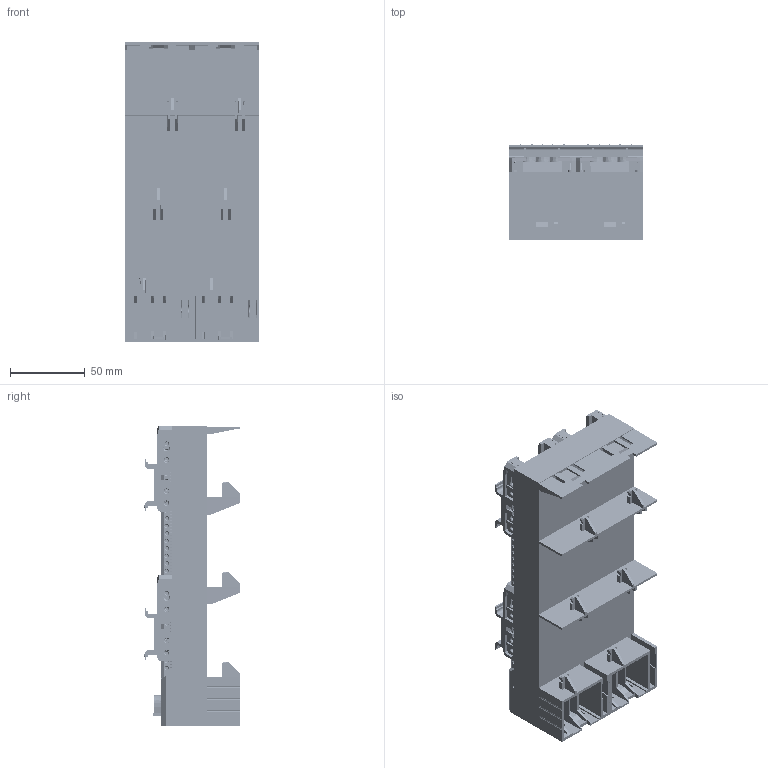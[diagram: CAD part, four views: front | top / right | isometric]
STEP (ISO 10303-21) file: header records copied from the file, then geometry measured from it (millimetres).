
FILE_DESCRIPTION (( 'STEP AP203' ), '1' );
FILE_NAME ('55359.STEP', '2021-08-17T01:25:13', ( '' ), ( '' ), 'SwSTEP 2.0', 'SolidWorks 2017', '' );
FILE_SCHEMA (( 'CONFIG_CONTROL_DESIGN' ));
Products named in the file (2): 55359
Bounding box: 90 x 64.5 x 200.72 mm (x, y, z)
Volume: 535521.5 mm3; surface area: 165334.2 mm2
Topology: 6 solids, 22 shells, 4284 faces, 12048 edges, 8094 vertices
Faces by surface type: plane 2698, cylinder 1218, cone 332, bspline 36
Full cylindrical faces by diameter (mm): 1.988 x260, 2.779 x16, 2.882 x24, 2.982 x260, 4.864 x16, 5.169 x4
Entity records: 232925 total; most frequent: CARTESIAN_POINT 132060, ORIENTED_EDGE 21764, DIRECTION 17510, EDGE_CURVE 10882, VERTEX_POINT 7792, VECTOR 6614, LINE 6614, EDGE_LOOP 5654
